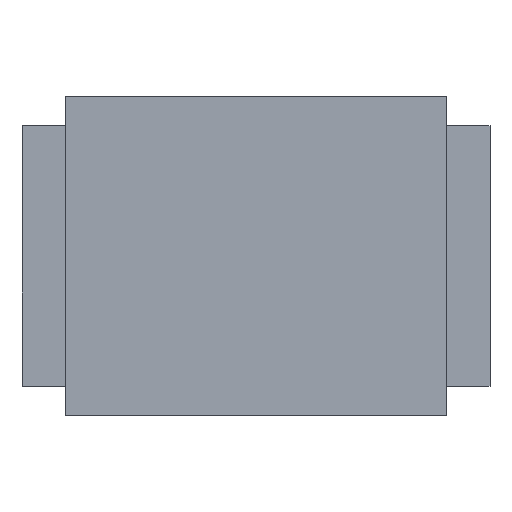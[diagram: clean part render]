
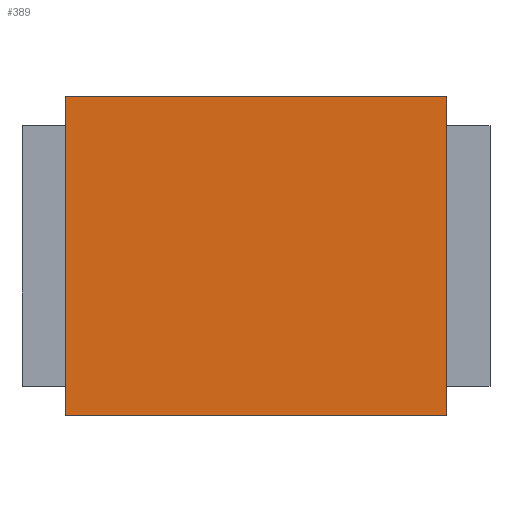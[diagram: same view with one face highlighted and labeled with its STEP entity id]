
A CAD part, top view. The second image highlights one B-rep face of the part: STEP entity #389.
In plain terms, the highlighted planar face has unit normal (0, 0, 1).
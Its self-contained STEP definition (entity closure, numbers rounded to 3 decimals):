
#389=ADVANCED_FACE('',(#645),#647,.T.);
#645=FACE_BOUND('',#646,.T.);
#646=EDGE_LOOP('',(#1012,#1013,#1014,#1015));
#647=PLANE('',#648);
#648=AXIS2_PLACEMENT_3D('',#649,#650,#651);
#649=CARTESIAN_POINT('',(0.,0.,0.57));
#650=DIRECTION('',(0.,0.,1.));
#651=DIRECTION('',(-1.,0.,0.));
#1012=ORIENTED_EDGE('',*,*,#1240,.T.);
#1013=ORIENTED_EDGE('',*,*,#1238,.T.);
#1014=ORIENTED_EDGE('',*,*,#1228,.T.);
#1015=ORIENTED_EDGE('',*,*,#1226,.T.);
#1226=EDGE_CURVE('',#1465,#1463,#1466,.T.);
#1228=EDGE_CURVE('',#1468,#1465,#1469,.F.);
#1238=EDGE_CURVE('',#1483,#1468,#1484,.T.);
#1240=EDGE_CURVE('',#1463,#1483,#1486,.F.);
#1463=VERTEX_POINT('',#1786);
#1465=VERTEX_POINT('',#1790);
#1466=LINE('',#1791,#1792);
#1468=VERTEX_POINT('',#1797);
#1469=LINE('',#1798,#1799);
#1483=VERTEX_POINT('',#1832);
#1484=LINE('',#1833,#1834);
#1486=LINE('',#1839,#1840);
#1786=CARTESIAN_POINT('',(0.746,-0.625,0.57));
#1790=CARTESIAN_POINT('',(-0.746,-0.625,0.57));
#1791=CARTESIAN_POINT('',(-0.746,-0.625,0.57));
#1792=VECTOR('',#1793,1.);
#1793=DIRECTION('',(1.,0.,0.));
#1797=CARTESIAN_POINT('',(-0.746,0.625,0.57));
#1798=CARTESIAN_POINT('',(-0.746,-0.625,0.57));
#1799=VECTOR('',#1800,1.);
#1800=DIRECTION('',(0.,1.,0.));
#1832=CARTESIAN_POINT('',(0.746,0.625,0.57));
#1833=CARTESIAN_POINT('',(0.746,0.625,0.57));
#1834=VECTOR('',#1835,1.);
#1835=DIRECTION('',(-1.,0.,0.));
#1839=CARTESIAN_POINT('',(0.746,0.625,0.57));
#1840=VECTOR('',#1841,1.);
#1841=DIRECTION('',(0.,-1.,0.));
